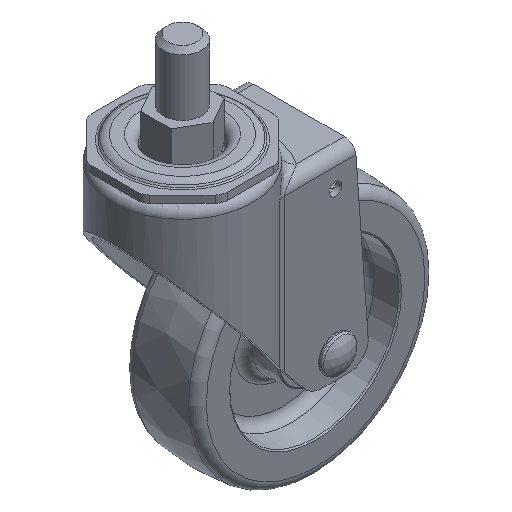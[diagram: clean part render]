
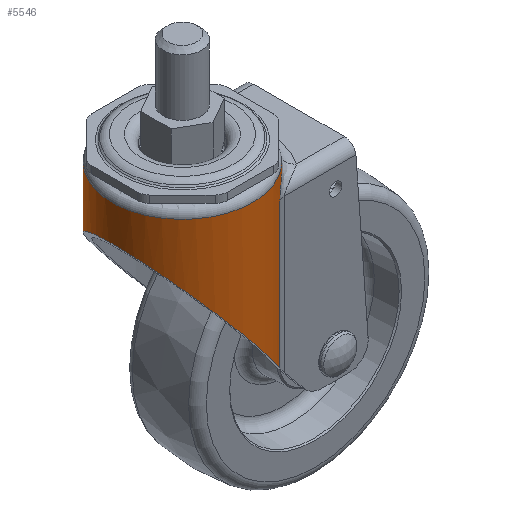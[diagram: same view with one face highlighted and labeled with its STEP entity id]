
A CAD part, isometric view. The second image highlights one B-rep face of the part: STEP entity #5546.
In plain terms, the highlighted cylindrical face has radius 29 mm (diameter 58 mm), a full revolution.
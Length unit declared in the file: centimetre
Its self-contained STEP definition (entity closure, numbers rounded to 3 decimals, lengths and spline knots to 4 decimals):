
#23=ELLIPSE('',#6027,4.5663,2.9);
#37=B_SPLINE_CURVE_WITH_KNOTS('',3,(#8744,#8745,#8746,#8747,#8748,#8749,
#8750,#8751,#8752,#8753,#8754,#8755,#8756,#8757),.UNSPECIFIED.,.F.,.F.,
(4,2,2,2,2,2,4),(0.,3.1723,6.3447,11.5482,12.0638,
15.6383,17.8723),.UNSPECIFIED.);
#38=B_SPLINE_CURVE_WITH_KNOTS('',3,(#8764,#8765,#8766,#8767,#8768,#8769,
#8770,#8771,#8772,#8773,#8774,#8775,#8776,#8777,#8778,#8779,#8780,#8781,
#8782),.UNSPECIFIED.,.F.,.F.,(4,3,3,3,3,3,4),(0.,4.6805,9.8752,
13.405,15.6112,16.99,17.8518),
 .UNSPECIFIED.);
#198=CYLINDRICAL_SURFACE('',#6025,2.9);
#356=LINE('',#8759,#640);
#357=LINE('',#8763,#641);
#640=VECTOR('',#6970,5.9639);
#641=VECTOR('',#6973,5.9639);
#1069=FACE_BOUND('',#1671,.T.);
#1256=FACE_OUTER_BOUND('',#1670,.T.);
#1670=EDGE_LOOP('',(#3910));
#1671=EDGE_LOOP('',(#3911,#3912,#3913,#3914,#3915,#3916));
#2153=CIRCLE('',#6024,2.9);
#2154=CIRCLE('',#6026,2.9);
#2525=VERTEX_POINT('',#8737);
#2526=VERTEX_POINT('',#8740);
#2527=VERTEX_POINT('',#8741);
#2528=VERTEX_POINT('',#8743);
#2529=VERTEX_POINT('',#8758);
#2530=VERTEX_POINT('',#8760);
#2531=VERTEX_POINT('',#8762);
#3062=EDGE_CURVE('',#2525,#2525,#2153,.T.);
#3063=EDGE_CURVE('',#2526,#2527,#2154,.T.);
#3064=EDGE_CURVE('',#2528,#2526,#37,.T.);
#3065=EDGE_CURVE('',#2529,#2528,#356,.T.);
#3066=EDGE_CURVE('',#2529,#2530,#23,.T.);
#3067=EDGE_CURVE('',#2531,#2530,#357,.T.);
#3068=EDGE_CURVE('',#2527,#2531,#38,.T.);
#3910=ORIENTED_EDGE('',*,*,#3062,.T.);
#3911=ORIENTED_EDGE('',*,*,#3063,.F.);
#3912=ORIENTED_EDGE('',*,*,#3064,.F.);
#3913=ORIENTED_EDGE('',*,*,#3065,.F.);
#3914=ORIENTED_EDGE('',*,*,#3066,.T.);
#3915=ORIENTED_EDGE('',*,*,#3067,.F.);
#3916=ORIENTED_EDGE('',*,*,#3068,.F.);
#5546=ADVANCED_FACE('',(#1256,#1069),#198,.T.);
#6024=AXIS2_PLACEMENT_3D('',#8738,#6964,#6965);
#6025=AXIS2_PLACEMENT_3D('',#8739,#6966,#6967);
#6026=AXIS2_PLACEMENT_3D('',#8742,#6968,#6969);
#6027=AXIS2_PLACEMENT_3D('',#8761,#6971,#6972);
#6964=DIRECTION('center_axis',(0.,0.,-1.));
#6965=DIRECTION('ref_axis',(-1.,0.,0.));
#6966=DIRECTION('center_axis',(0.,0.,-1.));
#6967=DIRECTION('ref_axis',(-1.,0.,0.));
#6968=DIRECTION('center_axis',(0.,0.,-1.));
#6969=DIRECTION('ref_axis',(1.,0.,0.));
#6970=DIRECTION('',(0.,0.,1.));
#6971=DIRECTION('center_axis',(0.772,0.,0.635));
#6972=DIRECTION('ref_axis',(-0.635,0.,0.772));
#6973=DIRECTION('',(0.,0.,-1.));
#8737=CARTESIAN_POINT('',(1.3346,0.8889,2.03));
#8738=CARTESIAN_POINT('Origin',(-1.5654,0.8889,2.03));
#8739=CARTESIAN_POINT('Origin',(-1.5654,0.8889,-2.92));
#8740=CARTESIAN_POINT('',(0.8537,2.4882,1.98));
#8741=CARTESIAN_POINT('',(0.8537,-0.7104,1.98));
#8742=CARTESIAN_POINT('Origin',(-1.5654,0.8889,1.98));
#8743=CARTESIAN_POINT('',(0.0483,3.2984,1.03));
#8744=CARTESIAN_POINT('Ctrl Pts',(0.0483,3.2984,1.03));
#8745=CARTESIAN_POINT('Ctrl Pts',(0.0483,3.2984,1.1357));
#8746=CARTESIAN_POINT('Ctrl Pts',(0.0723,3.2826,1.2405));
#8747=CARTESIAN_POINT('Ctrl Pts',(0.1464,3.2302,1.4236));
#8748=CARTESIAN_POINT('Ctrl Pts',(0.1959,3.1937,1.505));
#8749=CARTESIAN_POINT('Ctrl Pts',(0.3348,3.0824,1.6911));
#8750=CARTESIAN_POINT('Ctrl Pts',(0.4316,2.9962,1.7824));
#8751=CARTESIAN_POINT('Ctrl Pts',(0.5357,2.8877,1.8566));
#8752=CARTESIAN_POINT('Ctrl Pts',(0.5451,2.8778,1.863));
#8753=CARTESIAN_POINT('Ctrl Pts',(0.6192,2.7985,1.9124));
#8754=CARTESIAN_POINT('Ctrl Pts',(0.6831,2.7231,1.9442));
#8755=CARTESIAN_POINT('Ctrl Pts',(0.7819,2.593,1.9739));
#8756=CARTESIAN_POINT('Ctrl Pts',(0.8187,2.5411,1.98));
#8757=CARTESIAN_POINT('Ctrl Pts',(0.8537,2.4882,1.98));
#8758=CARTESIAN_POINT('',(0.0483,3.2984,-4.9339));
#8759=CARTESIAN_POINT('',(0.0483,3.2984,-4.9339));
#8760=CARTESIAN_POINT('',(0.0483,-1.5207,-4.9339));
#8761=CARTESIAN_POINT('Origin',(-1.5654,0.8889,-2.9711));
#8762=CARTESIAN_POINT('',(0.0483,-1.5207,1.03));
#8763=CARTESIAN_POINT('',(0.0483,-1.5207,1.03));
#8764=CARTESIAN_POINT('Ctrl Pts',(0.8537,-0.7104,
1.98));
#8765=CARTESIAN_POINT('Ctrl Pts',(0.7804,-0.8214,1.98));
#8766=CARTESIAN_POINT('Ctrl Pts',(0.6994,-0.9268,
1.9535));
#8767=CARTESIAN_POINT('Ctrl Pts',(0.6154,-1.0227,1.9066));
#8768=CARTESIAN_POINT('Ctrl Pts',(0.5221,-1.1291,1.8545));
#8769=CARTESIAN_POINT('Ctrl Pts',(0.4254,-1.2233,1.7782));
#8770=CARTESIAN_POINT('Ctrl Pts',(0.3332,-1.3032,1.6777));
#8771=CARTESIAN_POINT('Ctrl Pts',(0.2706,-1.3575,1.6094));
#8772=CARTESIAN_POINT('Ctrl Pts',(0.2105,-1.4046,1.5305));
#8773=CARTESIAN_POINT('Ctrl Pts',(0.1599,-1.442,1.4383));
#8774=CARTESIAN_POINT('Ctrl Pts',(0.1283,-1.4654,1.3806));
#8775=CARTESIAN_POINT('Ctrl Pts',(0.1004,-1.4851,1.317));
#8776=CARTESIAN_POINT('Ctrl Pts',(0.0804,-1.4988,1.2491));
#8777=CARTESIAN_POINT('Ctrl Pts',(0.068,-1.5074,
1.2067));
#8778=CARTESIAN_POINT('Ctrl Pts',(0.0585,-1.5138,
1.162));
#8779=CARTESIAN_POINT('Ctrl Pts',(0.0533,-1.5173,
1.1162));
#8780=CARTESIAN_POINT('Ctrl Pts',(0.05,-1.5195,
1.0876));
#8781=CARTESIAN_POINT('Ctrl Pts',(0.0483,-1.5207,
1.0587));
#8782=CARTESIAN_POINT('Ctrl Pts',(0.0483,-1.5207,
1.03));
